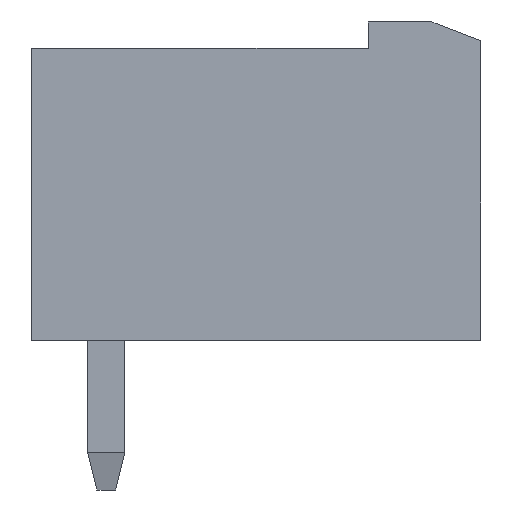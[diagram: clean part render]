
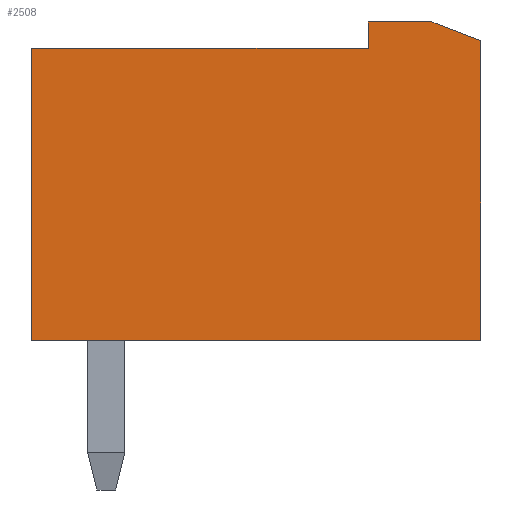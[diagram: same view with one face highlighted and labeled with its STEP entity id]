
A CAD part, left-side view. The second image highlights one B-rep face of the part: STEP entity #2508.
In plain terms, the highlighted free-form (B-spline) face has degree [1, 1] with [2, 2] control points.
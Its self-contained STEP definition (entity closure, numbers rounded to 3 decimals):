
#2508 = ADVANCED_FACE('',(#2509),#2522,.T.);
#2509 = FACE_BOUND('',#2510,.T.);
#2510 = EDGE_LOOP('',(#2511,#2532,#2569,#2583,#2597,#2611,#2625));
#2511 = ORIENTED_EDGE('',*,*,#2512,.T.);
#2512 = EDGE_CURVE('',#2513,#2515,#2517,.T.);
#2513 = VERTEX_POINT('',#2514);
#2514 = CARTESIAN_POINT('',(-5.,0.,-3.9));
#2515 = VERTEX_POINT('',#2516);
#2516 = CARTESIAN_POINT('',(-5.,0.,4.1));
#2517 = SURFACE_CURVE('',#2518,(#2521),.PCURVE_S1.);
#2518 = B_SPLINE_CURVE_WITH_KNOTS('',1,(#2519,#2520),.UNSPECIFIED.,.F.,
  .F.,(2,2),(0.,1.),.PIECEWISE_BEZIER_KNOTS.);
#2519 = CARTESIAN_POINT('',(-5.,0.,-3.9));
#2520 = CARTESIAN_POINT('',(-5.,0.,4.1));
#2521 = PCURVE('',#2522,#2527);
#2522 = B_SPLINE_SURFACE_WITH_KNOTS('',1,1,(
    (#2523,#2524)
    ,(#2525,#2526
    )),.UNSPECIFIED.,.F.,.F.,.F.,(2,2),(2,2),(0.,1.),(0.,1.),
  .PIECEWISE_BEZIER_KNOTS.);
#2523 = CARTESIAN_POINT('',(-5.,44.765,-40.93));
#2524 = CARTESIAN_POINT('',(-5.,44.765,18.23));
#2525 = CARTESIAN_POINT('',(-5.,-14.395,-40.93));
#2526 = CARTESIAN_POINT('',(-5.,-14.395,18.23));
#2527 = DEFINITIONAL_REPRESENTATION('',(#2528),#2531);
#2528 = B_SPLINE_CURVE_WITH_KNOTS('',1,(#2529,#2530),.UNSPECIFIED.,.F.,
  .F.,(2,2),(0.,1.),.PIECEWISE_BEZIER_KNOTS.);
#2529 = CARTESIAN_POINT('',(0.757,0.626));
#2530 = CARTESIAN_POINT('',(0.757,0.761));
#2531 = ( GEOMETRIC_REPRESENTATION_CONTEXT(2) 
PARAMETRIC_REPRESENTATION_CONTEXT() REPRESENTATION_CONTEXT('2D SPACE',''
  ) );
#2532 = ORIENTED_EDGE('',*,*,#2533,.T.);
#2533 = EDGE_CURVE('',#2515,#2534,#2536,.T.);
#2534 = VERTEX_POINT('',#2535);
#2535 = CARTESIAN_POINT('',(-5.,1.3,4.6));
#2536 = SURFACE_CURVE('',#2537,(#2540),.PCURVE_S1.);
#2537 = B_SPLINE_CURVE_WITH_KNOTS('',1,(#2538,#2539),.UNSPECIFIED.,.F.,
  .F.,(2,2),(0.,1.),.PIECEWISE_BEZIER_KNOTS.);
#2538 = CARTESIAN_POINT('',(-5.,0.,4.1));
#2539 = CARTESIAN_POINT('',(-5.,1.3,4.6));
#2540 = PCURVE('',#2522,#2541);
#2541 = DEFINITIONAL_REPRESENTATION('',(#2542),#2568);
#2542 = B_SPLINE_CURVE_WITH_KNOTS('',3,(#2543,#2544,#2545,#2546,#2547,
    #2548,#2549,#2550,#2551,#2552,#2553,#2554,#2555,#2556,#2557,#2558,
    #2559,#2560,#2561,#2562,#2563,#2564,#2565,#2566,#2567),
  .UNSPECIFIED.,.F.,.F.,(4,1,1,1,1,1,1,1,1,1,1,1,1,1,1,1,1,1,1,1,1,1,4),
  (0.,0.045,0.091,0.136,
    0.182,0.227,0.273,0.318,
    0.364,0.409,0.455,0.5,0.545,
    0.591,0.636,0.682,0.727,
    0.773,0.818,0.864,0.909,
    0.955,1.),.QUASI_UNIFORM_KNOTS.);
#2543 = CARTESIAN_POINT('',(0.757,0.761));
#2544 = CARTESIAN_POINT('',(0.756,0.761));
#2545 = CARTESIAN_POINT('',(0.756,0.762));
#2546 = CARTESIAN_POINT('',(0.755,0.762));
#2547 = CARTESIAN_POINT('',(0.754,0.762));
#2548 = CARTESIAN_POINT('',(0.753,0.763));
#2549 = CARTESIAN_POINT('',(0.752,0.763));
#2550 = CARTESIAN_POINT('',(0.751,0.763));
#2551 = CARTESIAN_POINT('',(0.75,0.764));
#2552 = CARTESIAN_POINT('',(0.749,0.764));
#2553 = CARTESIAN_POINT('',(0.748,0.765));
#2554 = CARTESIAN_POINT('',(0.747,0.765));
#2555 = CARTESIAN_POINT('',(0.746,0.765));
#2556 = CARTESIAN_POINT('',(0.745,0.766));
#2557 = CARTESIAN_POINT('',(0.744,0.766));
#2558 = CARTESIAN_POINT('',(0.743,0.767));
#2559 = CARTESIAN_POINT('',(0.742,0.767));
#2560 = CARTESIAN_POINT('',(0.741,0.767));
#2561 = CARTESIAN_POINT('',(0.74,0.768));
#2562 = CARTESIAN_POINT('',(0.739,0.768));
#2563 = CARTESIAN_POINT('',(0.738,0.768));
#2564 = CARTESIAN_POINT('',(0.737,0.769));
#2565 = CARTESIAN_POINT('',(0.736,0.769));
#2566 = CARTESIAN_POINT('',(0.735,0.769));
#2567 = CARTESIAN_POINT('',(0.735,0.77));
#2568 = ( GEOMETRIC_REPRESENTATION_CONTEXT(2) 
PARAMETRIC_REPRESENTATION_CONTEXT() REPRESENTATION_CONTEXT('2D SPACE',''
  ) );
#2569 = ORIENTED_EDGE('',*,*,#2570,.T.);
#2570 = EDGE_CURVE('',#2534,#2571,#2573,.T.);
#2571 = VERTEX_POINT('',#2572);
#2572 = CARTESIAN_POINT('',(-5.,3.,4.6));
#2573 = SURFACE_CURVE('',#2574,(#2577),.PCURVE_S1.);
#2574 = B_SPLINE_CURVE_WITH_KNOTS('',1,(#2575,#2576),.UNSPECIFIED.,.F.,
  .F.,(2,2),(0.,1.),.PIECEWISE_BEZIER_KNOTS.);
#2575 = CARTESIAN_POINT('',(-5.,1.3,4.6));
#2576 = CARTESIAN_POINT('',(-5.,3.,4.6));
#2577 = PCURVE('',#2522,#2578);
#2578 = DEFINITIONAL_REPRESENTATION('',(#2579),#2582);
#2579 = B_SPLINE_CURVE_WITH_KNOTS('',1,(#2580,#2581),.UNSPECIFIED.,.F.,
  .F.,(2,2),(0.,1.),.PIECEWISE_BEZIER_KNOTS.);
#2580 = CARTESIAN_POINT('',(0.735,0.77));
#2581 = CARTESIAN_POINT('',(0.706,0.77));
#2582 = ( GEOMETRIC_REPRESENTATION_CONTEXT(2) 
PARAMETRIC_REPRESENTATION_CONTEXT() REPRESENTATION_CONTEXT('2D SPACE',''
  ) );
#2583 = ORIENTED_EDGE('',*,*,#2584,.T.);
#2584 = EDGE_CURVE('',#2571,#2585,#2587,.T.);
#2585 = VERTEX_POINT('',#2586);
#2586 = CARTESIAN_POINT('',(-5.,3.,3.9));
#2587 = SURFACE_CURVE('',#2588,(#2591),.PCURVE_S1.);
#2588 = B_SPLINE_CURVE_WITH_KNOTS('',1,(#2589,#2590),.UNSPECIFIED.,.F.,
  .F.,(2,2),(0.,1.),.PIECEWISE_BEZIER_KNOTS.);
#2589 = CARTESIAN_POINT('',(-5.,3.,4.6));
#2590 = CARTESIAN_POINT('',(-5.,3.,3.9));
#2591 = PCURVE('',#2522,#2592);
#2592 = DEFINITIONAL_REPRESENTATION('',(#2593),#2596);
#2593 = B_SPLINE_CURVE_WITH_KNOTS('',1,(#2594,#2595),.UNSPECIFIED.,.F.,
  .F.,(2,2),(0.,1.),.PIECEWISE_BEZIER_KNOTS.);
#2594 = CARTESIAN_POINT('',(0.706,0.77));
#2595 = CARTESIAN_POINT('',(0.706,0.758));
#2596 = ( GEOMETRIC_REPRESENTATION_CONTEXT(2) 
PARAMETRIC_REPRESENTATION_CONTEXT() REPRESENTATION_CONTEXT('2D SPACE',''
  ) );
#2597 = ORIENTED_EDGE('',*,*,#2598,.T.);
#2598 = EDGE_CURVE('',#2585,#2599,#2601,.T.);
#2599 = VERTEX_POINT('',#2600);
#2600 = CARTESIAN_POINT('',(-5.,12.,3.9));
#2601 = SURFACE_CURVE('',#2602,(#2605),.PCURVE_S1.);
#2602 = B_SPLINE_CURVE_WITH_KNOTS('',1,(#2603,#2604),.UNSPECIFIED.,.F.,
  .F.,(2,2),(0.,1.),.PIECEWISE_BEZIER_KNOTS.);
#2603 = CARTESIAN_POINT('',(-5.,3.,3.9));
#2604 = CARTESIAN_POINT('',(-5.,12.,3.9));
#2605 = PCURVE('',#2522,#2606);
#2606 = DEFINITIONAL_REPRESENTATION('',(#2607),#2610);
#2607 = B_SPLINE_CURVE_WITH_KNOTS('',1,(#2608,#2609),.UNSPECIFIED.,.F.,
  .F.,(2,2),(0.,1.),.PIECEWISE_BEZIER_KNOTS.);
#2608 = CARTESIAN_POINT('',(0.706,0.758));
#2609 = CARTESIAN_POINT('',(0.554,0.758));
#2610 = ( GEOMETRIC_REPRESENTATION_CONTEXT(2) 
PARAMETRIC_REPRESENTATION_CONTEXT() REPRESENTATION_CONTEXT('2D SPACE',''
  ) );
#2611 = ORIENTED_EDGE('',*,*,#2612,.T.);
#2612 = EDGE_CURVE('',#2599,#2613,#2615,.T.);
#2613 = VERTEX_POINT('',#2614);
#2614 = CARTESIAN_POINT('',(-5.,12.,-3.9));
#2615 = SURFACE_CURVE('',#2616,(#2619),.PCURVE_S1.);
#2616 = B_SPLINE_CURVE_WITH_KNOTS('',1,(#2617,#2618),.UNSPECIFIED.,.F.,
  .F.,(2,2),(0.,1.),.PIECEWISE_BEZIER_KNOTS.);
#2617 = CARTESIAN_POINT('',(-5.,12.,3.9));
#2618 = CARTESIAN_POINT('',(-5.,12.,-3.9));
#2619 = PCURVE('',#2522,#2620);
#2620 = DEFINITIONAL_REPRESENTATION('',(#2621),#2624);
#2621 = B_SPLINE_CURVE_WITH_KNOTS('',1,(#2622,#2623),.UNSPECIFIED.,.F.,
  .F.,(2,2),(0.,1.),.PIECEWISE_BEZIER_KNOTS.);
#2622 = CARTESIAN_POINT('',(0.554,0.758));
#2623 = CARTESIAN_POINT('',(0.554,0.626));
#2624 = ( GEOMETRIC_REPRESENTATION_CONTEXT(2) 
PARAMETRIC_REPRESENTATION_CONTEXT() REPRESENTATION_CONTEXT('2D SPACE',''
  ) );
#2625 = ORIENTED_EDGE('',*,*,#2626,.T.);
#2626 = EDGE_CURVE('',#2613,#2513,#2627,.T.);
#2627 = SURFACE_CURVE('',#2628,(#2631),.PCURVE_S1.);
#2628 = B_SPLINE_CURVE_WITH_KNOTS('',1,(#2629,#2630),.UNSPECIFIED.,.F.,
  .F.,(2,2),(0.,1.),.PIECEWISE_BEZIER_KNOTS.);
#2629 = CARTESIAN_POINT('',(-5.,12.,-3.9));
#2630 = CARTESIAN_POINT('',(-5.,0.,-3.9));
#2631 = PCURVE('',#2522,#2632);
#2632 = DEFINITIONAL_REPRESENTATION('',(#2633),#2636);
#2633 = B_SPLINE_CURVE_WITH_KNOTS('',1,(#2634,#2635),.UNSPECIFIED.,.F.,
  .F.,(2,2),(0.,1.),.PIECEWISE_BEZIER_KNOTS.);
#2634 = CARTESIAN_POINT('',(0.554,0.626));
#2635 = CARTESIAN_POINT('',(0.757,0.626));
#2636 = ( GEOMETRIC_REPRESENTATION_CONTEXT(2) 
PARAMETRIC_REPRESENTATION_CONTEXT() REPRESENTATION_CONTEXT('2D SPACE',''
  ) );
